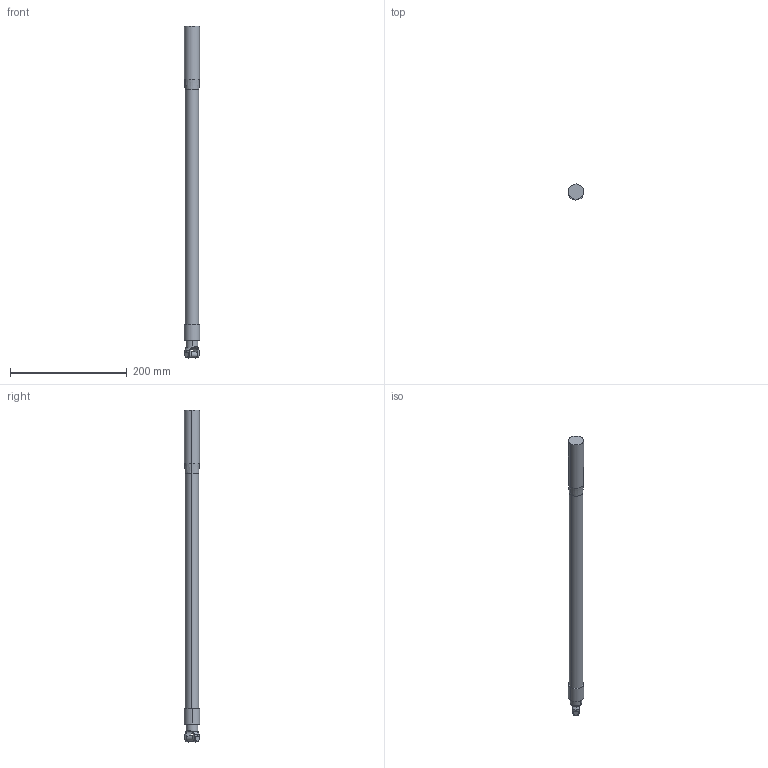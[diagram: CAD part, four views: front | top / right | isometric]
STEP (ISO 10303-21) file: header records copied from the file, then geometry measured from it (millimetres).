
FILE_DESCRIPTION (( 'STEP AP214' ), '1' );
FILE_NAME ('IRB360_8-1130-STD-4D_rev03_RevoluteLinkLower_CAD.step', '2025-01-14T07:06:13', ( '' ), ( '' ), 'SwSTEP 2.0', 'SolidWorks 2022', '' );
FILE_SCHEMA (( 'AUTOMOTIVE_DESIGN' ));
Length unit declared in the file: millimetre
Products named in the file (1): IRB360_8-1130-STD-4D_rev03_RevoluteLinkLower_CAD
Bounding box: 27 x 27 x 568.8 mm (x, y, z)
Volume: 261076.3 mm3; surface area: 48167.6 mm2
Topology: 4 solids, 4 shells, 59 faces, 140 edges, 90 vertices
Faces by surface type: cylinder 33, plane 17, cone 7, torus 2
Entity records: 2109 total; most frequent: CARTESIAN_POINT 699, ORIENTED_EDGE 280, DIRECTION 276, EDGE_CURVE 140, AXIS2_PLACEMENT_3D 115, VERTEX_POINT 90, EDGE_LOOP 66, ADVANCED_FACE 59
